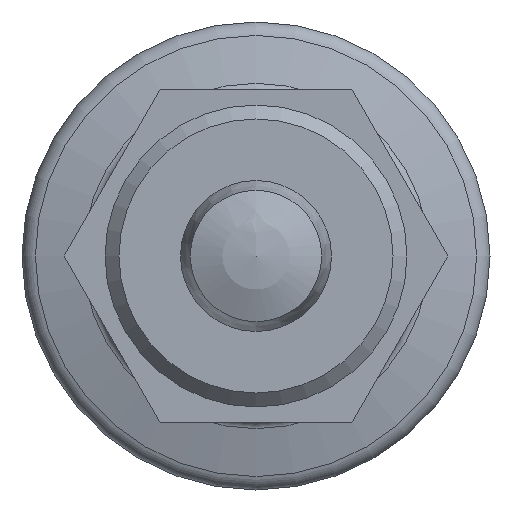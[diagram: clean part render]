
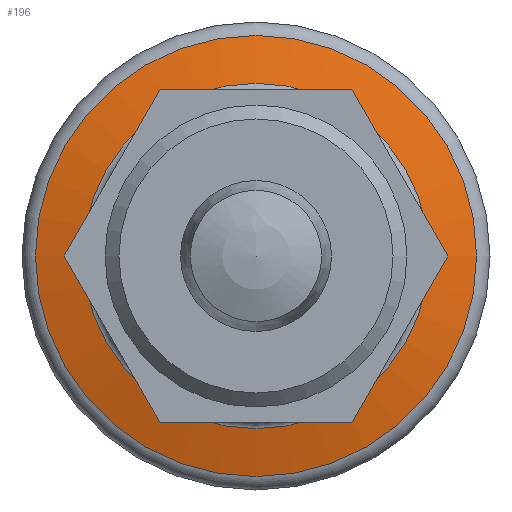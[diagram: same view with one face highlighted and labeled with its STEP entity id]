
A CAD part, front view. The second image highlights one B-rep face of the part: STEP entity #196.
In plain terms, the highlighted conical face has half-angle 75 degrees and reference radius 14.611 mm.
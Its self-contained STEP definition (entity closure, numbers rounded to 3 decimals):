
#196 = ADVANCED_FACE( '', ( #278, #279 ), #280, .T. );
#278 = FACE_BOUND( '', #415, .T. );
#279 = FACE_OUTER_BOUND( '', #416, .T. );
#280 = CONICAL_SURFACE( '', #417, 14.611, 1.309 );
#415 = EDGE_LOOP( '', ( #614 ) );
#416 = EDGE_LOOP( '', ( #615 ) );
#417 = AXIS2_PLACEMENT_3D( '', #616, #617, #618 );
#614 = ORIENTED_EDGE( '', *, *, #714, .F. );
#615 = ORIENTED_EDGE( '', *, *, #713, .T. );
#616 = CARTESIAN_POINT( '', ( 60.762, 0., 0. ) );
#617 = DIRECTION( '', ( 1., 0., 0. ) );
#618 = DIRECTION( '', ( 0., 1., 0. ) );
#713 = EDGE_CURVE( '', #799, #799, #800, .T. );
#714 = EDGE_CURVE( '', #801, #801, #802, .T. );
#799 = VERTEX_POINT( '', #979 );
#800 = CIRCLE( '', #980, 14.611 );
#801 = VERTEX_POINT( '', #981 );
#802 = CIRCLE( '', #982, 11.44 );
#979 = CARTESIAN_POINT( '', ( 60.762, -14.611, 0. ) );
#980 = AXIS2_PLACEMENT_3D( '', #1070, #1071, #1072 );
#981 = CARTESIAN_POINT( '', ( 59.912, -11.44, 0. ) );
#982 = AXIS2_PLACEMENT_3D( '', #1073, #1074, #1075 );
#1070 = CARTESIAN_POINT( '', ( 60.762, 0., 0. ) );
#1071 = DIRECTION( '', ( -1., 0., 0. ) );
#1072 = DIRECTION( '', ( 0., -1., 0. ) );
#1073 = CARTESIAN_POINT( '', ( 59.912, 0., 0. ) );
#1074 = DIRECTION( '', ( -1., 0., 0. ) );
#1075 = DIRECTION( '', ( 0., -1., 0. ) );
